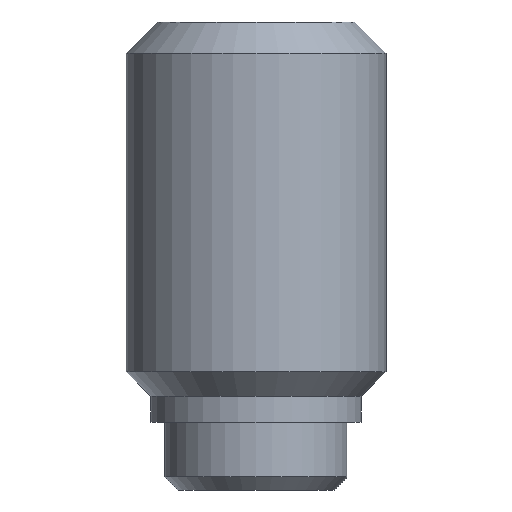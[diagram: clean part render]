
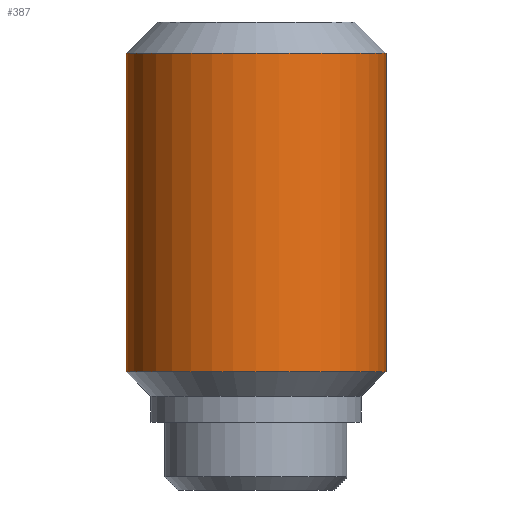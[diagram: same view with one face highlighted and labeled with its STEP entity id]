
A CAD part, front view. The second image highlights one B-rep face of the part: STEP entity #387.
In plain terms, the highlighted cylindrical face has radius 5 mm (diameter 10 mm), a partial arc.
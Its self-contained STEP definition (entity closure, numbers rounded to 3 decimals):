
#2 = VERTEX_POINT ( 'NONE', #647 ) ;
#9 = CIRCLE ( 'NONE', #642, 5. ) ;
#40 = LINE ( 'NONE', #499, #126 ) ;
#49 = EDGE_CURVE ( 'NONE', #461, #493, #40, .T. ) ;
#75 = CARTESIAN_POINT ( 'NONE',  ( 5., 0., 4.55 ) ) ;
#96 = DIRECTION ( 'NONE',  ( 0., 0., -1. ) ) ;
#126 = VECTOR ( 'NONE', #96, 1000. ) ;
#127 = CIRCLE ( 'NONE', #350, 5. ) ;
#142 = VECTOR ( 'NONE', #649, 1000. ) ;
#165 = EDGE_LOOP ( 'NONE', ( #176, #570, #372, #638 ) ) ;
#176 = ORIENTED_EDGE ( 'NONE', *, *, #49, .F. ) ;
#203 = CARTESIAN_POINT ( 'NONE',  ( 5., 0., 16.8 ) ) ;
#263 = CARTESIAN_POINT ( 'NONE',  ( 0., 0., 16.8 ) ) ;
#284 = EDGE_CURVE ( 'NONE', #2, #644, #459, .T. ) ;
#285 = DIRECTION ( 'NONE',  ( 0., 0., -1. ) ) ;
#308 = DIRECTION ( 'NONE',  ( 0., 0., 1. ) ) ;
#330 = CARTESIAN_POINT ( 'NONE',  ( -5., 0., 4.55 ) ) ;
#334 = DIRECTION ( 'NONE',  ( -1., 0., 0. ) ) ;
#350 = AXIS2_PLACEMENT_3D ( 'NONE', #623, #285, #334 ) ;
#365 = CYLINDRICAL_SURFACE ( 'NONE', #617, 5. ) ;
#372 = ORIENTED_EDGE ( 'NONE', *, *, #284, .T. ) ;
#387 = ADVANCED_FACE ( 'NONE', ( #568 ), #365, .T. ) ;
#406 = EDGE_CURVE ( 'NONE', #2, #461, #9, .T. ) ;
#425 = DIRECTION ( 'NONE',  ( -1., 0., 0. ) ) ;
#459 = LINE ( 'NONE', #494, #142 ) ;
#461 = VERTEX_POINT ( 'NONE', #203 ) ;
#471 = CARTESIAN_POINT ( 'NONE',  ( 0., 0., 2.6 ) ) ;
#477 = DIRECTION ( 'NONE',  ( 1., 0., 0. ) ) ;
#493 = VERTEX_POINT ( 'NONE', #75 ) ;
#494 = CARTESIAN_POINT ( 'NONE',  ( -5., 0., 2.6 ) ) ;
#499 = CARTESIAN_POINT ( 'NONE',  ( 5., 0., 2.6 ) ) ;
#568 = FACE_OUTER_BOUND ( 'NONE', #165, .T. ) ;
#570 = ORIENTED_EDGE ( 'NONE', *, *, #406, .F. ) ;
#605 = EDGE_CURVE ( 'NONE', #493, #644, #127, .T. ) ;
#611 = DIRECTION ( 'NONE',  ( 0., 0., -1. ) ) ;
#617 = AXIS2_PLACEMENT_3D ( 'NONE', #471, #611, #425 ) ;
#623 = CARTESIAN_POINT ( 'NONE',  ( 0., 0., 4.55 ) ) ;
#638 = ORIENTED_EDGE ( 'NONE', *, *, #605, .F. ) ;
#642 = AXIS2_PLACEMENT_3D ( 'NONE', #263, #308, #477 ) ;
#644 = VERTEX_POINT ( 'NONE', #330 ) ;
#647 = CARTESIAN_POINT ( 'NONE',  ( -5., 0., 16.8 ) ) ;
#649 = DIRECTION ( 'NONE',  ( 0., 0., -1. ) ) ;
